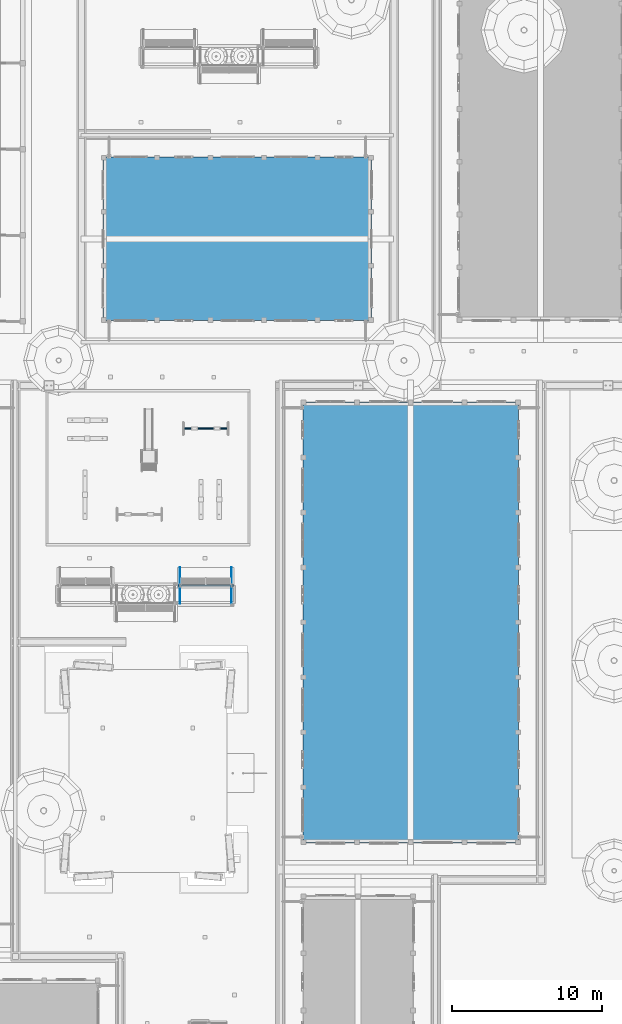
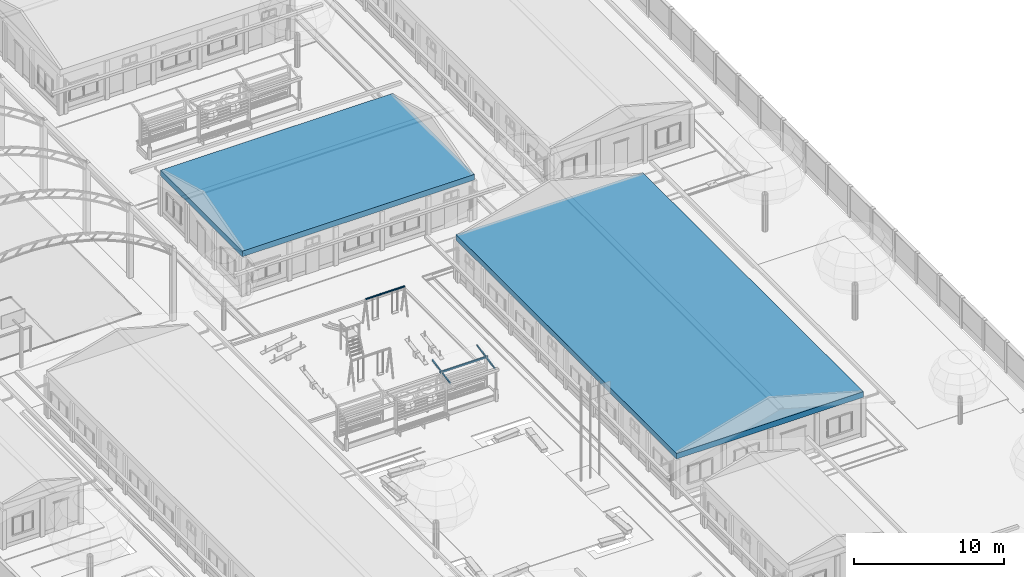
# One storey, part 21 of 177: 6 beams.
"""IFC4 building model written with IfcOpenShell, lengths in metres."""

from ifc_helpers import new_model, si_unit, origin, origin_with_axes, place, context, subcontext, project, spatial, triangles, element, save


model = new_model("IFC4")

# Units and contexts
model_context = context("Model", 3, precision=1e-05, world=origin_with_axes())
body_context = subcontext(model_context, "Body", "Model", "MODEL_VIEW")
ifc_project = project(units=[si_unit("LENGTHUNIT", "METRE"), si_unit("AREAUNIT", "SQUARE_METRE"), si_unit("VOLUMEUNIT", "CUBIC_METRE"), si_unit("PLANEANGLEUNIT", "RADIAN")], contexts=[model_context])

# Site, building, storey
site_placement = place(None, origin_with_axes())
site = spatial("IfcSite", under=ifc_project, at=site_placement, Name="Predio Los Mangos - Morales, San Martín", CompositionType="ELEMENT")
building_placement = place(site_placement, origin())
building = spatial("IfcBuilding", under=site, at=building_placement, Name="Hogar de Refugio Temporal", CompositionType="ELEMENT")
storey_placement = place(building_placement, origin())
storey = spatial("IfcBuildingStorey", under=building, at=storey_placement, Name="NIVEL 1 (NPT +0.00)", CompositionType="ELEMENT", Elevation=0.0)

# Beams
beam_1_placement = place(storey_placement, origin())
element("IfcBeam", 1, at=beam_1_placement, inside=storey, Name="E-05_viga", ObjectType="Viga", PredefinedType="BEAM", context=body_context, shape_type="Tessellation", body=[
    triangles([(45.26, 57.86, 3.3), (59.64, 57.86, 3.3), (59.64, 87.24, 3.3), (45.26, 87.24, 3.3), (45.26, 57.86, 3.75), (59.64, 57.86, 3.75), (59.64, 87.24, 3.75), (45.26, 87.24, 3.75)], [[1, 4, 3], [1, 3, 2], [5, 6, 7], [5, 7, 8], [1, 2, 6], [1, 6, 5], [2, 3, 7], [2, 7, 6], [3, 4, 8], [3, 8, 7], [4, 1, 5], [4, 5, 8]]),
])
beam_2_placement = place(storey_placement, origin())
element("IfcBeam", 2, at=beam_2_placement, inside=storey, Name="E-06_viga", ObjectType="Viga", PredefinedType="BEAM", context=body_context, shape_type="Tessellation", body=[
    triangles([(31.96, 92.66, 3.3), (49.84, 92.66, 3.3), (49.84, 103.54, 3.3), (31.96, 103.54, 3.3), (31.96, 92.66, 3.75), (49.84, 92.66, 3.75), (49.84, 103.54, 3.75), (31.96, 103.54, 3.75)], [[1, 4, 3], [1, 3, 2], [5, 6, 7], [5, 7, 8], [1, 2, 6], [1, 6, 5], [2, 3, 7], [2, 7, 6], [3, 4, 8], [3, 8, 7], [4, 1, 5], [4, 5, 8]]),
])
beam_3_placement = place(storey_placement, origin())
element("IfcBeam", 3, at=beam_3_placement, inside=storey, Name="columpio_viga", ObjectType="Viga", PredefinedType="BEAM", context=body_context, shape_type="Tessellation", body=[
    triangles([(37.31, 85.469, 2.4), (40.285, 85.469, 2.4), (37.31, 85.494, 2.3933), (40.285, 85.494, 2.3933), (37.31, 85.5123, 2.375), (40.285, 85.5123, 2.375), (37.31, 85.519, 2.35), (40.285, 85.519, 2.35), (37.31, 85.5123, 2.325), (40.285, 85.5123, 2.325), (37.31, 85.494, 2.3067), (40.285, 85.494, 2.3067), (37.31, 85.469, 2.3), (40.285, 85.469, 2.3), (37.31, 85.444, 2.3067), (40.285, 85.444, 2.3067), (37.31, 85.4257, 2.325), (40.285, 85.4257, 2.325), (37.31, 85.419, 2.35), (40.285, 85.419, 2.35), (37.31, 85.4257, 2.375), (40.285, 85.4257, 2.375), (37.31, 85.444, 2.3933), (40.285, 85.444, 2.3933)], [[1, 2, 4], [1, 4, 3], [3, 4, 6], [3, 6, 5], [5, 6, 8], [5, 8, 7], [7, 8, 10], [7, 10, 9], [9, 10, 12], [9, 12, 11], [11, 12, 14], [11, 14, 13], [13, 14, 16], [13, 16, 15], [15, 16, 18], [15, 18, 17], [17, 18, 20], [17, 20, 19], [19, 20, 22], [19, 22, 21], [6, 4, 2], [2, 24, 22], [22, 20, 18], [18, 16, 14], [14, 12, 10], [10, 8, 6], [6, 2, 22], [22, 18, 14], [14, 10, 6], [22, 14, 6], [21, 22, 24], [21, 24, 23], [23, 24, 2], [23, 2, 1], [23, 1, 3], [3, 5, 7], [7, 9, 11], [11, 13, 15], [15, 17, 19], [19, 21, 23], [23, 3, 7], [7, 11, 15], [15, 19, 23], [7, 15, 23]]),
])
beam_4_placement = place(storey_placement, origin())
element("IfcBeam", 4, at=beam_4_placement, inside=storey, Name="oc01_viga", ObjectType="Viga", PredefinedType="BEAM", context=body_context, shape_type="Tessellation", body=[
    triangles([(40.645, 75.05, 2.81), (36.955, 75.05, 2.81), (36.955, 74.95, 2.81), (40.645, 74.95, 2.81), (40.645, 75.05, 2.93), (36.955, 75.05, 2.93), (36.955, 74.95, 2.93), (40.645, 74.95, 2.93)], [[1, 4, 3], [1, 3, 2], [5, 6, 7], [5, 7, 8], [1, 2, 6], [1, 6, 5], [2, 3, 7], [2, 7, 6], [3, 4, 8], [3, 8, 7], [4, 1, 5], [4, 5, 8]]),
])
beam_5_placement = place(storey_placement, origin())
element("IfcBeam", 5, at=beam_5_placement, inside=storey, Name="oc01_correa", ObjectType="Viga", PredefinedType="BEAM", context=body_context, shape_type="Tessellation", body=[
    triangles([(40.54, 73.8094, 2.5909), (40.54, 76.2094, 3.0509), (40.49, 76.2094, 3.0509), (40.49, 73.8094, 2.5909), (40.54, 73.7906, 2.6891), (40.54, 76.1906, 3.1491), (40.49, 76.1906, 3.1491), (40.49, 73.7906, 2.6891)], [[1, 4, 3], [1, 3, 2], [5, 6, 7], [5, 7, 8], [1, 2, 6], [1, 6, 5], [2, 3, 7], [2, 7, 6], [3, 4, 8], [3, 8, 7], [4, 1, 5], [4, 5, 8]]),
])
beam_6_placement = place(storey_placement, origin())
element("IfcBeam", 6, at=beam_6_placement, inside=storey, Name="oc01_correa", ObjectType="Viga", PredefinedType="BEAM", context=body_context, shape_type="Tessellation", body=[
    triangles([(37.11, 73.8094, 2.5909), (37.11, 76.2094, 3.0509), (37.06, 76.2094, 3.0509), (37.06, 73.8094, 2.5909), (37.11, 73.7906, 2.6891), (37.11, 76.1906, 3.1491), (37.06, 76.1906, 3.1491), (37.06, 73.7906, 2.6891)], [[1, 4, 3], [1, 3, 2], [5, 6, 7], [5, 7, 8], [1, 2, 6], [1, 6, 5], [2, 3, 7], [2, 7, 6], [3, 4, 8], [3, 8, 7], [4, 1, 5], [4, 5, 8]]),
])

save(model, "model.ifc")
